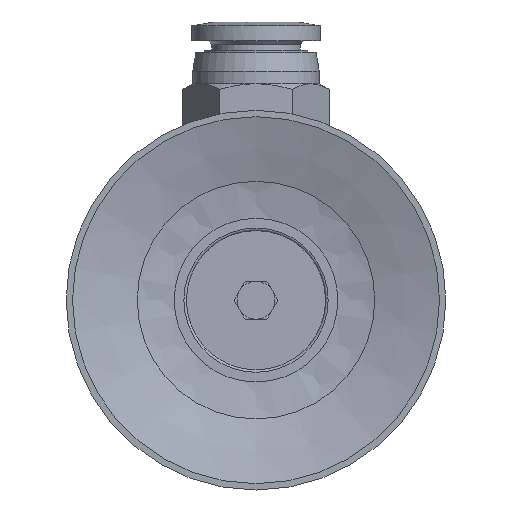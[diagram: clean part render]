
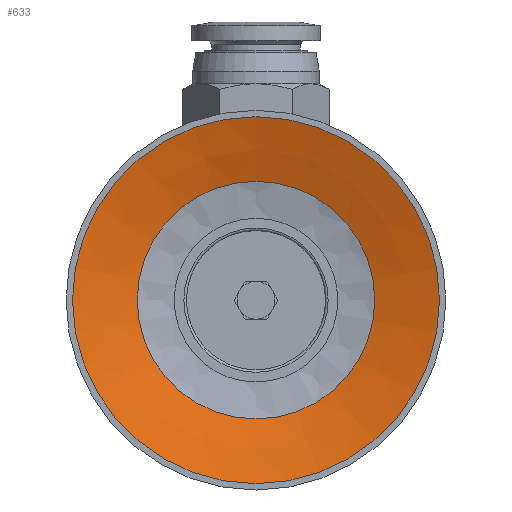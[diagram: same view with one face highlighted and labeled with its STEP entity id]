
A CAD part, front view. The second image highlights one B-rep face of the part: STEP entity #633.
In plain terms, the highlighted conical face has half-angle 73 degrees and reference radius 7.958 mm.
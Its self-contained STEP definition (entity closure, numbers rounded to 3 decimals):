
#633=ADVANCED_FACE('',(#977,#978),#979,.F.);
#977=FACE_BOUND('',#1418,.T.);
#978=FACE_OUTER_BOUND('',#1419,.T.);
#979=CONICAL_SURFACE('',#1420,7.958,1.274);
#1418=EDGE_LOOP('',(#2669));
#1419=EDGE_LOOP('',(#2670));
#1420=AXIS2_PLACEMENT_3D('',#2671,#2672,#2673);
#2669=ORIENTED_EDGE('',*,*,#3277,.T.);
#2670=ORIENTED_EDGE('',*,*,#3278,.T.);
#2671=CARTESIAN_POINT('',(0.0,9.363,0.0));
#2672=DIRECTION('',(-0.0,-1.0,0.));
#2673=DIRECTION('',(0.0,0.,-1.0));
#3277=EDGE_CURVE('',#3778,#3778,#3779,.T.);
#3278=EDGE_CURVE('',#3780,#3780,#3781,.T.);
#3778=VERTEX_POINT('',#4859);
#3779=CIRCLE('',#4860,9.388);
#3780=VERTEX_POINT('',#4861);
#3781=CIRCLE('',#4862,14.5);
#4859=CARTESIAN_POINT('',(0.0,8.926,-9.388));
#4860=AXIS2_PLACEMENT_3D('',#5686,#5687,#5688);
#4861=CARTESIAN_POINT('',(0.0,7.363,-14.5));
#4862=AXIS2_PLACEMENT_3D('',#5689,#5690,#5691);
#5686=CARTESIAN_POINT('',(0.0,8.926,0.0));
#5687=DIRECTION('',(0.0,1.0,0.));
#5688=DIRECTION('',(0.0,0.,-1.0));
#5689=CARTESIAN_POINT('',(0.0,7.363,0.0));
#5690=DIRECTION('',(0.0,-1.0,0.));
#5691=DIRECTION('',(0.0,0.,-1.0));
